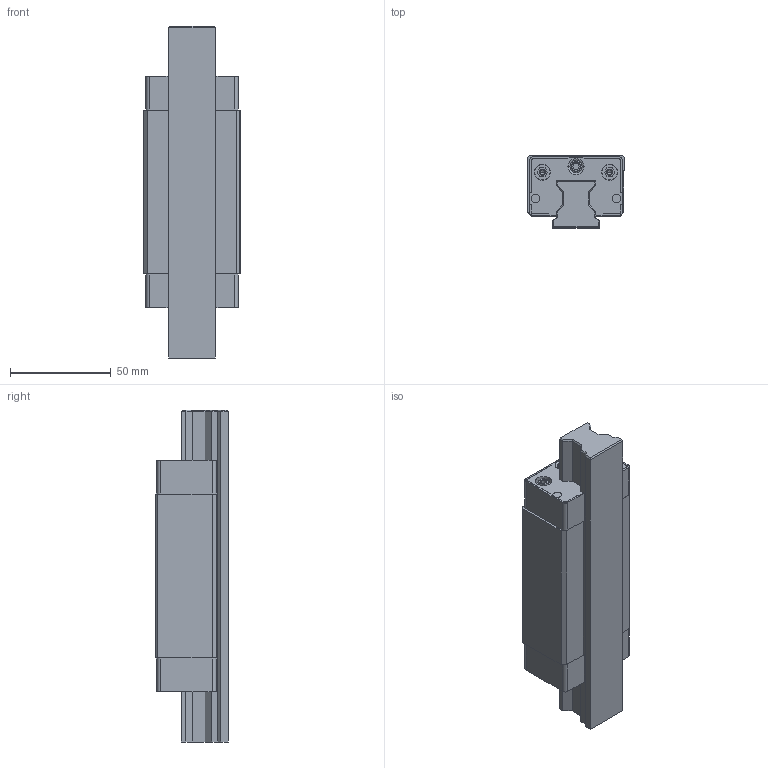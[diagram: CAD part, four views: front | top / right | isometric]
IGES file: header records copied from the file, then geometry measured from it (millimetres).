
Start section: 3D InterOp IGES (v. 2019 1.0.2), Spatial Corp. Copyright (c) 1999-2017.
Global section: file name: R1823_size25.igs; native system: Spatial Corp.; preprocessor: 3D InterOp GENERIC/IGES 3.0; author: Noname; organization: Noname; date: 20220630.112900; units: millimetre
Bounding box: 48 x 36 x 165 mm (x, y, z)
Surface area: 56158.6 mm2 (no closed solid volume)
Topology: 0 solids, 0 shells, 376 faces, 1948 edges, 1928 vertices
Faces by surface type: extrusion 226, revolution 150
